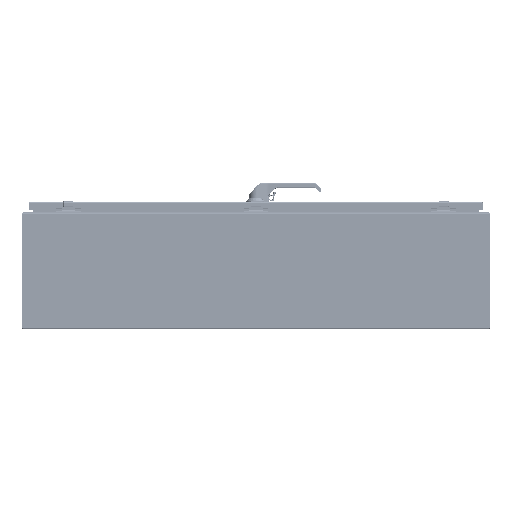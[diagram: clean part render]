
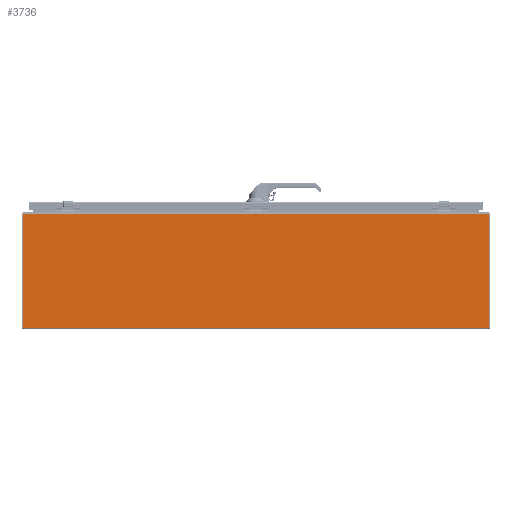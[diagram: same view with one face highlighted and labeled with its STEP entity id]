
A CAD part, left-side view. The second image highlights one B-rep face of the part: STEP entity #3736.
In plain terms, the highlighted planar face has unit normal (-1, 0, 0).
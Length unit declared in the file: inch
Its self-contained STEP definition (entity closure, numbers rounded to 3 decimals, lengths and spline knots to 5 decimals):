
#833=DIRECTION('',(0.,1.,0.));
#834=VECTOR('',#833,47.85);
#835=CARTESIAN_POINT('',(-24.,-23.925,-5.855));
#836=LINE('',#835,#834);
#1002=DIRECTION('',(0.,0.,-1.));
#1003=VECTOR('',#1002,11.71);
#1004=CARTESIAN_POINT('',(-24.,-23.925,5.855));
#1005=LINE('',#1004,#1003);
#1023=DIRECTION('',(0.,0.,-1.));
#1024=VECTOR('',#1023,11.71);
#1025=CARTESIAN_POINT('',(-24.,23.925,5.855));
#1026=LINE('',#1025,#1024);
#1051=DIRECTION('',(0.,1.,0.));
#1052=VECTOR('',#1051,47.85);
#1053=CARTESIAN_POINT('',(-24.,-23.925,5.855));
#1054=LINE('',#1053,#1052);
#2486=CARTESIAN_POINT('',(-24.,-23.925,5.855));
#2487=CARTESIAN_POINT('',(-24.,-23.925,-5.855));
#2488=VERTEX_POINT('',#2486);
#2489=VERTEX_POINT('',#2487);
#2498=CARTESIAN_POINT('',(-24.,23.925,5.855));
#2499=CARTESIAN_POINT('',(-24.,23.925,-5.855));
#2500=VERTEX_POINT('',#2498);
#2501=VERTEX_POINT('',#2499);
#3723=CARTESIAN_POINT('',(-24.,-23.925,6.));
#3724=DIRECTION('',(-1.,0.,0.));
#3725=DIRECTION('',(0.,0.,-1.));
#3726=AXIS2_PLACEMENT_3D('',#3723,#3724,#3725);
#3727=PLANE('',#3726);
#3728=ORIENTED_EDGE('',*,*,#3714,.T.);
#3729=ORIENTED_EDGE('',*,*,#3597,.T.);
#3731=ORIENTED_EDGE('',*,*,#3730,.F.);
#3733=ORIENTED_EDGE('',*,*,#3732,.F.);
#3734=EDGE_LOOP('',(#3728,#3729,#3731,#3733));
#3735=FACE_OUTER_BOUND('',#3734,.F.);
#3597=EDGE_CURVE('',#2489,#2501,#836,.T.);
#3714=EDGE_CURVE('',#2488,#2489,#1005,.T.);
#3730=EDGE_CURVE('',#2500,#2501,#1026,.T.);
#3732=EDGE_CURVE('',#2488,#2500,#1054,.T.);
#3736=ADVANCED_FACE('',(#3735),#3727,.T.);
